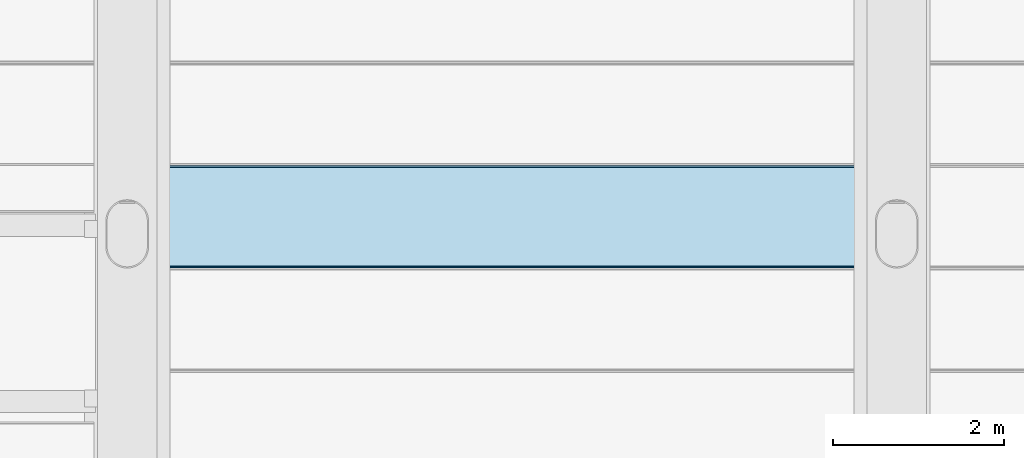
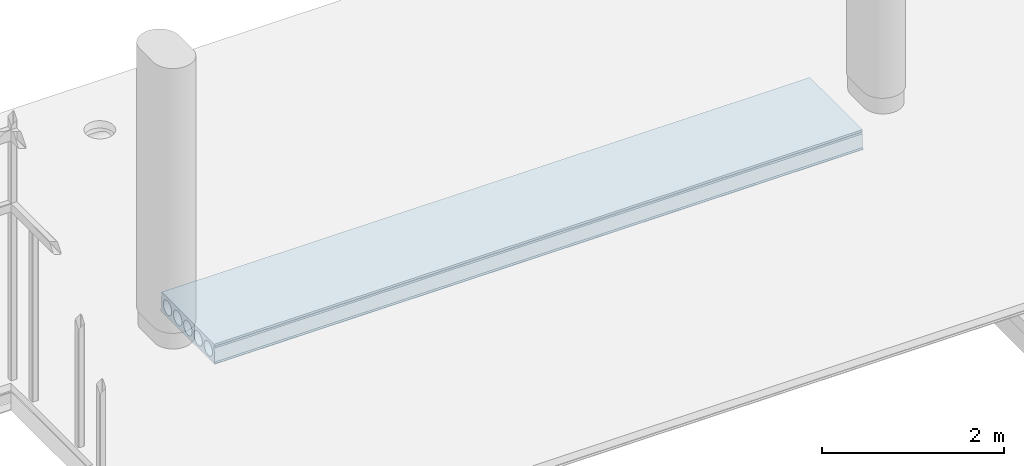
# One storey, part 11 of 34: 1 slab.
"""IFC2X3 building model written with IfcOpenShell, lengths in millimetres."""

from ifc_helpers import new_model, entity, si_unit, converted_unit, derived_unit, direction, frame, origin_with_axes, place, context, subcontext, project, spatial, polyline, outline, extrude, material, type_object, element, save


model = new_model("IFC2X3")

# Units and contexts
model_context = context("Model", 3, precision=0.01, world=frame((0.0, 4.29681676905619e-09, 0.0)), true_north=direction((4.01073788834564e-13, 1.0)))
plan_context = context("Plan", 3, precision=0.01, world=frame((0.0, 4.29681676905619e-09, 0.0)), true_north=direction((4.01073788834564e-13, 1.0)))
body_context = subcontext(model_context, "Body", "Model", "MODEL_VIEW")
ifc_project = project(units=[converted_unit("PLANEANGLEUNIT", "DEGREE", entity("IfcPositiveLengthMeasure", 0.0174532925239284), si_unit("PLANEANGLEUNIT", "RADIAN"), dimensions=[0, 0, 0, 0, 0, 0, 0]), si_unit("AREAUNIT", "SQUARE_METRE"), si_unit("LENGTHUNIT", "METRE", prefix="MILLI"), si_unit("MASSUNIT", "GRAM", prefix="KILO"), si_unit("POWERUNIT", "WATT"), si_unit("PRESSUREUNIT", "PASCAL"), si_unit("FORCEUNIT", "NEWTON", prefix="KILO"), si_unit("ELECTRICVOLTAGEUNIT", "VOLT"), si_unit("ELECTRICCURRENTUNIT", "AMPERE"), si_unit("THERMODYNAMICTEMPERATUREUNIT", "DEGREE_CELSIUS"), si_unit("TIMEUNIT", "SECOND"), si_unit("VOLUMEUNIT", "CUBIC_METRE"), derived_unit("LINEARVELOCITYUNIT", [(si_unit("LENGTHUNIT", "METRE"), 1), (si_unit("TIMEUNIT", "SECOND"), -1)]), derived_unit("VOLUMETRICFLOWRATEUNIT", [(si_unit("VOLUMEUNIT", "CUBIC_METRE"), 1), (si_unit("TIMEUNIT", "SECOND"), -1)]), derived_unit("THERMALTRANSMITTANCEUNIT", [(si_unit("POWERUNIT", "WATT"), 1), (si_unit("THERMODYNAMICTEMPERATUREUNIT", "KELVIN"), -1), (si_unit("AREAUNIT", "SQUARE_METRE"), -1)]), derived_unit("SOUNDPRESSUREUNIT", [(si_unit("PRESSUREUNIT", "PASCAL"), 1)])], contexts=[model_context, plan_context])

# Site, building, storey
site_placement = place(None, frame((0.0, -4.29681676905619e-09, 0.0), z_axis=(0.0, 0.0, 1.0), x_axis=(1.0, 0.0, 0.0)))
site = spatial("IfcSite", under=ifc_project, at=site_placement, Name="Gardermoen", CompositionType="ELEMENT")
building_placement = place(site_placement, frame((0.0, 4.29681676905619e-09, 0.0), z_axis=(0.0, 0.0, 1.0), x_axis=(1.0, 0.0, 0.0)))
building = spatial("IfcBuilding", under=site, at=building_placement, Name="TH", CompositionType="ELEMENT")
storey_placement = place(building_placement, origin_with_axes())
storey = spatial("IfcBuildingStorey", under=building, at=storey_placement, Name="F", CompositionType="ELEMENT", Elevation=0.0)

# Slab
ifc_material = material(Name="CONCRETE/C45/55")
slab_type = type_object("IfcSlabType", Name="HD265", PredefinedType="NOTDEFINED")
slab_placement = place(storey_placement, frame((898389.999766, 480499.989724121, 209897.5), z_axis=(0.0, 0.0, 1.0), x_axis=(1.0, 0.0, 0.0)))
element("IfcSlab", 1, at=slab_placement, inside=storey, type_object=slab_type, material=ifc_material, Name="HULLDEKKE", ObjectType="HD265", PredefinedType="FLOOR", context=body_context, shape_type="SweptSolid", body=[
    extrude(outline(polyline([(-583.380004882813, -132.5), (-600.0, -122.5), (-600.0, -112.5), (-585.0, -102.5), (-577.5, 77.5), (-570.0, 92.5), (-577.5, 107.5), (-577.5, 132.5), (577.5, 132.5), (577.5, 107.5), (570.0, 92.5), (577.5, 77.5), (585.0, -102.5), (600.0, -112.5), (600.0, -122.5), (583.380004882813, -132.5), (-583.380004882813, -132.5)]), holes=[polyline([(-539.238420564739, 15.2249996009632), (-540.184065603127, 7.63858945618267), (-540.5, 0.0), (-540.184065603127, -7.63858945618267), (-539.238420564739, -15.2249996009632), (-537.669524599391, -22.7074075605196), (-535.488094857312, -30.0347009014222), (-532.709032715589, -37.1568267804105), (-529.351321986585, -44.0251338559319), (-525.437899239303, -50.5927046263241), (-520.995497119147, -56.8146759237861), (-516.05446173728, -62.6485453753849), (-510.648545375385, -68.0544617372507), (-504.814675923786, -72.9954971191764), (-498.592704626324, -77.437899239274), (-492.025133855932, -81.3513219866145), (-485.15682678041, -84.7090327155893), (-478.034700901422, -87.4880948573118), (-470.707407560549, -89.6695245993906), (-463.224999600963, -91.2384205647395), (-455.638589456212, -92.1840656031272), (-448.0, -92.5), (-440.361410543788, -92.1840656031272), (-432.775000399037, -91.2384205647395), (-425.292592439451, -89.6695245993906), (-417.965299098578, -87.4880948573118), (-410.84317321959, -84.7090327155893), (-403.974866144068, -81.3513219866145), (-397.407295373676, -77.437899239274), (-391.185324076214, -72.9954971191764), (-385.351454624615, -68.0544617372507), (-379.94553826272, -62.6485453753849), (-375.004502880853, -56.8146759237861), (-370.562100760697, -50.5927046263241), (-366.648678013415, -44.0251338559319), (-363.290967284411, -37.1568267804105), (-360.511905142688, -30.0347009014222), (-358.330475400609, -22.7074075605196), (-356.761579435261, -15.2249996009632), (-355.815934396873, -7.63858945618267), (-355.5, 0.0), (-355.815934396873, 7.63858945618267), (-356.761579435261, 15.2249996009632), (-358.330475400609, 22.7074075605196), (-360.511905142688, 30.0347009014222), (-363.290967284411, 37.1568267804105), (-366.648678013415, 44.0251338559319), (-370.562100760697, 50.5927046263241), (-375.004502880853, 56.8146759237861), (-379.94553826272, 62.6485453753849), (-385.351454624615, 68.0544617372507), (-391.185324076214, 72.9954971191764), (-397.407295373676, 77.437899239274), (-403.974866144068, 81.3513219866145), (-410.84317321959, 84.7090327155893), (-417.965299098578, 87.4880948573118), (-425.292592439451, 89.6695245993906), (-432.775000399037, 91.2384205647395), (-440.361410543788, 92.1840656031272), (-448.0, 92.5), (-455.638589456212, 92.1840656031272), (-463.224999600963, 91.2384205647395), (-470.707407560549, 89.6695245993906), (-478.034700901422, 87.4880948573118), (-485.15682678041, 84.7090327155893), (-492.025133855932, 81.3513219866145), (-498.592704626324, 77.437899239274), (-504.814675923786, 72.9954971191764), (-510.648545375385, 68.0544617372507), (-516.05446173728, 62.6485453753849), (-520.995497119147, 56.8146759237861), (-525.437899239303, 50.5927046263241), (-529.351321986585, 44.0251338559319), (-532.709032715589, 37.1568267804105), (-535.488094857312, 30.0347009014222), (-537.669524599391, 22.7074075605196), (-539.238420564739, 15.2249996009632)]), polyline([(-315.238420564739, 15.2249996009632), (-316.184065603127, 7.63858945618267), (-316.5, 0.0), (-316.184065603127, -7.63858945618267), (-315.238420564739, -15.2249996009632), (-313.669524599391, -22.7074075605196), (-311.488094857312, -30.0347009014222), (-308.709032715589, -37.1568267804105), (-305.351321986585, -44.0251338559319), (-301.437899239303, -50.5927046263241), (-296.995497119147, -56.8146759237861), (-292.05446173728, -62.6485453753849), (-286.648545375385, -68.0544617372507), (-280.814675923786, -72.9954971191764), (-274.592704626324, -77.437899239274), (-268.025133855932, -81.3513219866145), (-261.15682678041, -84.7090327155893), (-254.034700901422, -87.4880948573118), (-246.707407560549, -89.6695245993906), (-239.224999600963, -91.2384205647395), (-231.638589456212, -92.1840656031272), (-224.0, -92.5), (-216.361410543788, -92.1840656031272), (-208.775000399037, -91.2384205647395), (-201.292592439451, -89.6695245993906), (-193.965299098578, -87.4880948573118), (-186.84317321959, -84.7090327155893), (-179.974866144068, -81.3513219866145), (-173.407295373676, -77.437899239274), (-167.185324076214, -72.9954971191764), (-161.351454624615, -68.0544617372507), (-155.94553826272, -62.6485453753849), (-151.004502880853, -56.8146759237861), (-146.562100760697, -50.5927046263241), (-142.648678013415, -44.0251338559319), (-139.290967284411, -37.1568267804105), (-136.511905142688, -30.0347009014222), (-134.330475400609, -22.7074075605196), (-132.761579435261, -15.2249996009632), (-131.815934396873, -7.63858945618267), (-131.5, 0.0), (-131.815934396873, 7.63858945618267), (-132.761579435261, 15.2249996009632), (-134.330475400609, 22.7074075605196), (-136.511905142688, 30.0347009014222), (-139.290967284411, 37.1568267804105), (-142.648678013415, 44.0251338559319), (-146.562100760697, 50.5927046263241), (-151.004502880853, 56.8146759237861), (-155.94553826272, 62.6485453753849), (-161.351454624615, 68.0544617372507), (-167.185324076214, 72.9954971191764), (-173.407295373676, 77.437899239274), (-179.974866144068, 81.3513219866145), (-186.84317321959, 84.7090327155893), (-193.965299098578, 87.4880948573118), (-201.292592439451, 89.6695245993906), (-208.775000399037, 91.2384205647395), (-216.361410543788, 92.1840656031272), (-224.0, 92.5), (-231.638589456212, 92.1840656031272), (-239.224999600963, 91.2384205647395), (-246.707407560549, 89.6695245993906), (-254.034700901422, 87.4880948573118), (-261.15682678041, 84.7090327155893), (-268.025133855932, 81.3513219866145), (-274.592704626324, 77.437899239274), (-280.814675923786, 72.9954971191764), (-286.648545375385, 68.0544617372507), (-292.05446173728, 62.6485453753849), (-296.995497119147, 56.8146759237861), (-301.437899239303, 50.5927046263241), (-305.351321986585, 44.0251338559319), (-308.709032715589, 37.1568267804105), (-311.488094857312, 30.0347009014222), (-313.669524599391, 22.7074075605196), (-315.238420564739, 15.2249996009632)]), polyline([(-91.2384205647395, 15.2249996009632), (-92.1840656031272, 7.63858945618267), (-92.5, 0.0), (-92.1840656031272, -7.63858945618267), (-91.2384205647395, -15.2249996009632), (-89.6695245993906, -22.7074075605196), (-87.4880948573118, -30.0347009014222), (-84.7090327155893, -37.1568267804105), (-81.3513219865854, -44.0251338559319), (-77.4378992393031, -50.5927046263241), (-72.9954971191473, -56.8146759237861), (-68.0544617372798, -62.6485453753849), (-62.6485453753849, -68.0544617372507), (-56.8146759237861, -72.9954971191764), (-50.5927046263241, -77.437899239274), (-44.0251338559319, -81.3513219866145), (-37.1568267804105, -84.7090327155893), (-30.0347009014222, -87.4880948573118), (-22.7074075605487, -89.6695245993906), (-15.2249996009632, -91.2384205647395), (-7.63858945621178, -92.1840656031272), (0.0, -92.5), (7.63858945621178, -92.1840656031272), (15.2249996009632, -91.2384205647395), (22.7074075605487, -89.6695245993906), (30.0347009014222, -87.4880948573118), (37.1568267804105, -84.7090327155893), (44.0251338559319, -81.3513219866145), (50.5927046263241, -77.437899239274), (56.8146759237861, -72.9954971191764), (62.6485453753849, -68.0544617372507), (68.0544617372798, -62.6485453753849), (72.9954971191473, -56.8146759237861), (77.4378992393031, -50.5927046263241), (81.3513219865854, -44.0251338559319), (84.7090327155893, -37.1568267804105), (87.4880948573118, -30.0347009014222), (89.6695245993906, -22.7074075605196), (91.2384205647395, -15.2249996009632), (92.1840656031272, -7.63858945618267), (92.5, 0.0), (92.1840656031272, 7.63858945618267), (91.2384205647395, 15.2249996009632), (89.6695245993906, 22.7074075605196), (87.4880948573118, 30.0347009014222), (84.7090327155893, 37.1568267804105), (81.3513219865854, 44.0251338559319), (77.4378992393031, 50.5927046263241), (72.9954971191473, 56.8146759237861), (68.0544617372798, 62.6485453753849), (62.6485453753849, 68.0544617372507), (56.8146759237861, 72.9954971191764), (50.5927046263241, 77.437899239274), (44.0251338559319, 81.3513219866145), (37.1568267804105, 84.7090327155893), (30.0347009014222, 87.4880948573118), (22.7074075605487, 89.6695245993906), (15.2249996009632, 91.2384205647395), (7.63858945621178, 92.1840656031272), (0.0, 92.5), (-7.63858945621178, 92.1840656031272), (-15.2249996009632, 91.2384205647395), (-22.7074075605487, 89.6695245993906), (-30.0347009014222, 87.4880948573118), (-37.1568267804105, 84.7090327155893), (-44.0251338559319, 81.3513219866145), (-50.5927046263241, 77.437899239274), (-56.8146759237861, 72.9954971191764), (-62.6485453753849, 68.0544617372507), (-68.0544617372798, 62.6485453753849), (-72.9954971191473, 56.8146759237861), (-77.4378992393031, 50.5927046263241), (-81.3513219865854, 44.0251338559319), (-84.7090327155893, 37.1568267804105), (-87.4880948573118, 30.0347009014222), (-89.6695245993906, 22.7074075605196), (-91.2384205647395, 15.2249996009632)]), polyline([(132.761579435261, 15.2249996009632), (131.815934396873, 7.63858945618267), (131.5, 0.0), (131.815934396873, -7.63858945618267), (132.761579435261, -15.2249996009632), (134.330475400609, -22.7074075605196), (136.511905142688, -30.0347009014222), (139.290967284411, -37.1568267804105), (142.648678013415, -44.0251338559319), (146.562100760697, -50.5927046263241), (151.004502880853, -56.8146759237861), (155.94553826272, -62.6485453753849), (161.351454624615, -68.0544617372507), (167.185324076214, -72.9954971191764), (173.407295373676, -77.437899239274), (179.974866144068, -81.3513219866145), (186.84317321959, -84.7090327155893), (193.965299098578, -87.4880948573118), (201.292592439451, -89.6695245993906), (208.775000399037, -91.2384205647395), (216.361410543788, -92.1840656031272), (224.0, -92.5), (231.638589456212, -92.1840656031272), (239.224999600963, -91.2384205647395), (246.707407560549, -89.6695245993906), (254.034700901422, -87.4880948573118), (261.15682678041, -84.7090327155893), (268.025133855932, -81.3513219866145), (274.592704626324, -77.437899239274), (280.814675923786, -72.9954971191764), (286.648545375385, -68.0544617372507), (292.05446173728, -62.6485453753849), (296.995497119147, -56.8146759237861), (301.437899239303, -50.5927046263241), (305.351321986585, -44.0251338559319), (308.709032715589, -37.1568267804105), (311.488094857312, -30.0347009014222), (313.669524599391, -22.7074075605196), (315.238420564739, -15.2249996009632), (316.184065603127, -7.63858945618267), (316.5, 0.0), (316.184065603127, 7.63858945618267), (315.238420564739, 15.2249996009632), (313.669524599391, 22.7074075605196), (311.488094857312, 30.0347009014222), (308.709032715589, 37.1568267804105), (305.351321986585, 44.0251338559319), (301.437899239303, 50.5927046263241), (296.995497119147, 56.8146759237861), (292.05446173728, 62.6485453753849), (286.648545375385, 68.0544617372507), (280.814675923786, 72.9954971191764), (274.592704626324, 77.437899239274), (268.025133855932, 81.3513219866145), (261.15682678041, 84.7090327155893), (254.034700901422, 87.4880948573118), (246.707407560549, 89.6695245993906), (239.224999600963, 91.2384205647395), (231.638589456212, 92.1840656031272), (224.0, 92.5), (216.361410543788, 92.1840656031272), (208.775000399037, 91.2384205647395), (201.292592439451, 89.6695245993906), (193.965299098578, 87.4880948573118), (186.84317321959, 84.7090327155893), (179.974866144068, 81.3513219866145), (173.407295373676, 77.437899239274), (167.185324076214, 72.9954971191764), (161.351454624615, 68.0544617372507), (155.94553826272, 62.6485453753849), (151.004502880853, 56.8146759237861), (146.562100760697, 50.5927046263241), (142.648678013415, 44.0251338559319), (139.290967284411, 37.1568267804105), (136.511905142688, 30.0347009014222), (134.330475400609, 22.7074075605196), (132.761579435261, 15.2249996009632)]), polyline([(356.761579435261, 15.2249996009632), (355.815934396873, 7.63858945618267), (355.5, 0.0), (355.815934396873, -7.63858945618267), (356.761579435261, -15.2249996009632), (358.330475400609, -22.7074075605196), (360.511905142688, -30.0347009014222), (363.290967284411, -37.1568267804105), (366.648678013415, -44.0251338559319), (370.562100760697, -50.5927046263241), (375.004502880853, -56.8146759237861), (379.94553826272, -62.6485453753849), (385.351454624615, -68.0544617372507), (391.185324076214, -72.9954971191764), (397.407295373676, -77.437899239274), (403.974866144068, -81.3513219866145), (410.84317321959, -84.7090327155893), (417.965299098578, -87.4880948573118), (425.292592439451, -89.6695245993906), (432.775000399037, -91.2384205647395), (440.361410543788, -92.1840656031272), (448.0, -92.5), (455.638589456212, -92.1840656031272), (463.224999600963, -91.2384205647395), (470.707407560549, -89.6695245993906), (478.034700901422, -87.4880948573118), (485.15682678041, -84.7090327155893), (492.025133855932, -81.3513219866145), (498.592704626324, -77.437899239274), (504.814675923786, -72.9954971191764), (510.648545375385, -68.0544617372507), (516.05446173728, -62.6485453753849), (520.995497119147, -56.8146759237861), (525.437899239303, -50.5927046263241), (529.351321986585, -44.0251338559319), (532.709032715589, -37.1568267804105), (535.488094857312, -30.0347009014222), (537.669524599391, -22.7074075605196), (539.238420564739, -15.2249996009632), (540.184065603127, -7.63858945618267), (540.5, 0.0), (540.184065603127, 7.63858945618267), (539.238420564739, 15.2249996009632), (537.669524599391, 22.7074075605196), (535.488094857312, 30.0347009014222), (532.709032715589, 37.1568267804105), (529.351321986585, 44.0251338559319), (525.437899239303, 50.5927046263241), (520.995497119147, 56.8146759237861), (516.05446173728, 62.6485453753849), (510.648545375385, 68.0544617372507), (504.814675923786, 72.9954971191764), (498.592704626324, 77.437899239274), (492.025133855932, 81.3513219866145), (485.15682678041, 84.7090327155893), (478.034700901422, 87.4880948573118), (470.707407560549, 89.6695245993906), (463.224999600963, 91.2384205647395), (455.638589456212, 92.1840656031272), (448.0, 92.5), (440.361410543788, 92.1840656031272), (432.775000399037, 91.2384205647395), (425.292592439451, 89.6695245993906), (417.965299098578, 87.4880948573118), (410.84317321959, 84.7090327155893), (403.974866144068, 81.3513219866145), (397.407295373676, 77.437899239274), (391.185324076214, 72.9954971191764), (385.351454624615, 68.0544617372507), (379.94553826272, 62.6485453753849), (375.004502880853, 56.8146759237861), (370.562100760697, 50.5927046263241), (366.648678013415, 44.0251338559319), (363.290967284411, 37.1568267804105), (360.511905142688, 30.0347009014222), (358.330475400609, 22.7074075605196), (356.761579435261, 15.2249996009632)])]), frame((8220.0, 0.0, 0.0), z_axis=(-1.0, 0.0, 6.61744490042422e-24), x_axis=(0.0, -1.0, 0.0)), (0.0, 0.0, 1.0), 8220.0),
])

save(model, "model.ifc")
